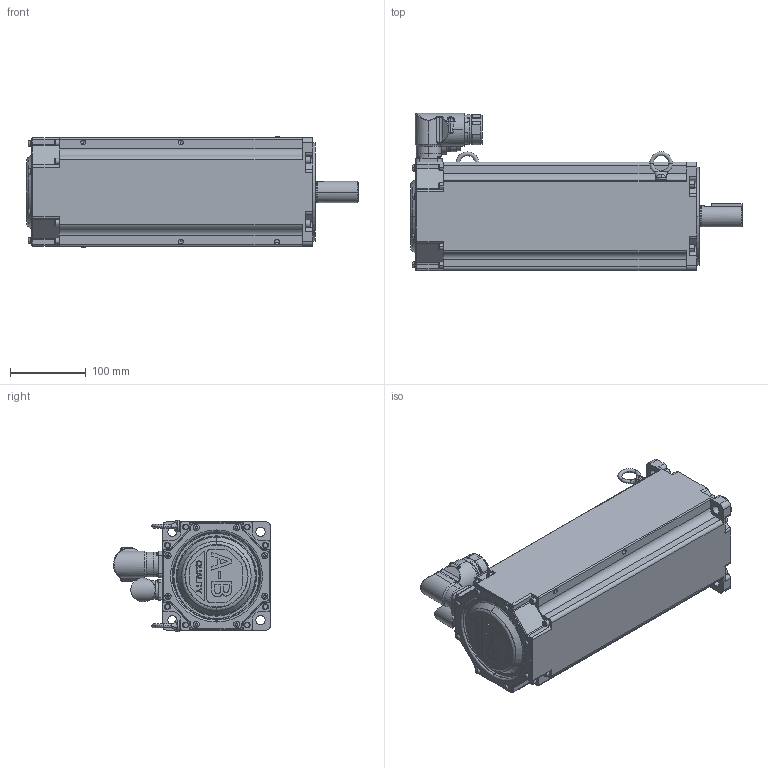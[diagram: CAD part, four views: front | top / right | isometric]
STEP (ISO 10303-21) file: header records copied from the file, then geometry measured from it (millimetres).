
FILE_DESCRIPTION (( 'STEP AP214' ), '1' );
FILE_NAME ('Rockwell Automation-MPM_Medium_Inertia_Motor-MPM-B1653F-xx74xx.STEP', '2012-04-11T12:36:05', ( 'SysAdmin' ), ( 'SolidWorks' ), 'SwSTEP 2.0', 'SolidWorks 2012', '' );
FILE_SCHEMA (( 'AUTOMOTIVE_DESIGN' ));
Length unit declared in the file: inch
Products named in the file (6): Rockwell Automation-MPM_Medium_Inertia_Motor-MPM-B1653F-xx74xx_MPM-xxx-Eyebolt; Rockwell Automation-MPM_Medium_Inertia_Motor-MPM-B1653F-xx74xx_MPM-xxxx-Power Connector-M40; Rockwell Automation-MPM_Medium_Inertia_Motor-MPM-B1653F-xx74xx_MPM-xxxx-Encoder Connector; Rockwell Automation-MPM_Medium_Inertia_Motor-MPM-B1653F-xx74xx_MPM-165x-Shaft_1653-SHAFT-KEY; Rockwell Automation-MPM_Medium_Inertia_Motor-MPM-B1653F-xx74xx_MPM-165x-body_B1653F-BRAKE; Rockwell Automation-MPM_Medium_Inertia_Motor-MPM-B1653F-xx74xx
Assembly tree (6 placements, depth 2):
  Rockwell Automation-MPM_Medium_Inertia_Motor-MPM-B1653F-xx74xx
    Rockwell Automation-MPM_Medium_Inertia_Motor-MPM-B1653F-xx74xx_MPM-165x-body_B1653F-BRAKE
    Rockwell Automation-MPM_Medium_Inertia_Motor-MPM-B1653F-xx74xx_MPM-165x-Shaft_1653-SHAFT-KEY
    Rockwell Automation-MPM_Medium_Inertia_Motor-MPM-B1653F-xx74xx_MPM-xxxx-Encoder Connector
    Rockwell Automation-MPM_Medium_Inertia_Motor-MPM-B1653F-xx74xx_MPM-xxxx-Power Connector-M40
    Rockwell Automation-MPM_Medium_Inertia_Motor-MPM-B1653F-xx74xx_MPM-xxx-Eyebolt  x2
Bounding box: 439.72 x 208.24 x 147.22 mm (x, y, z)
Volume: 3921791.2 mm3; surface area: 542120 mm2
Topology: 7 solids, 7 shells, 1104 faces, 2697 edges, 1708 vertices
Faces by surface type: plane 425, cylinder 398, torus 130, cone 100, bspline 51
Entity records: 38037 total; most frequent: CARTESIAN_POINT 9906, DIRECTION 5671, ORIENTED_EDGE 5280, EDGE_CURVE 2640, AXIS2_PLACEMENT_3D 2162, VERTEX_POINT 1682, LINE 1347, VECTOR 1347
